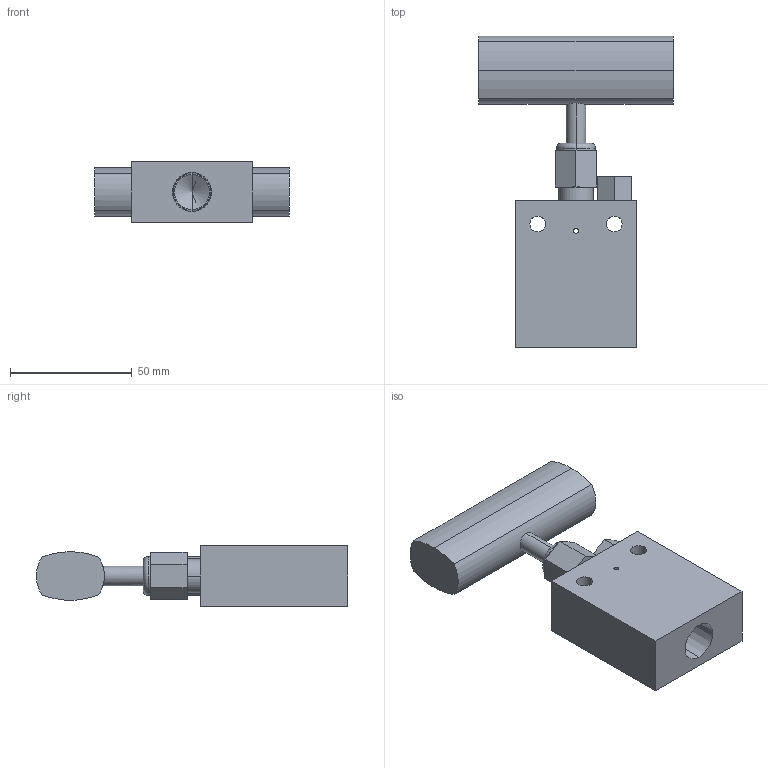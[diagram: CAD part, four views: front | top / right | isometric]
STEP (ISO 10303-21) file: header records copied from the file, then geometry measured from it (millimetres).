
FILE_DESCRIPTION (( 'STEP AP203' ), '1' );
FILE_NAME ('NVNRS06-A.STEP', '2022-04-19T05:58:21', ( '' ), ( '' ), 'SwSTEP 2.0', 'SolidWorks 2020', '' );
FILE_SCHEMA (( 'CONFIG_CONTROL_DESIGN' ));
Length unit declared in the file: millimetre
Products named in the file (1): NVNRS06-A
Bounding box: 80 x 127.94 x 25 mm (x, y, z)
Volume: 112235 mm3; surface area: 24180.4 mm2
Topology: 1 solids, 1 shells, 57 faces, 135 edges, 86 vertices
Faces by surface type: plane 26, cylinder 21, cone 8, torus 2
Entity records: 1776 total; most frequent: CARTESIAN_POINT 341, DIRECTION 297, ORIENTED_EDGE 262, EDGE_CURVE 131, AXIS2_PLACEMENT_3D 110, VERTEX_POINT 86, VECTOR 77, LINE 77
